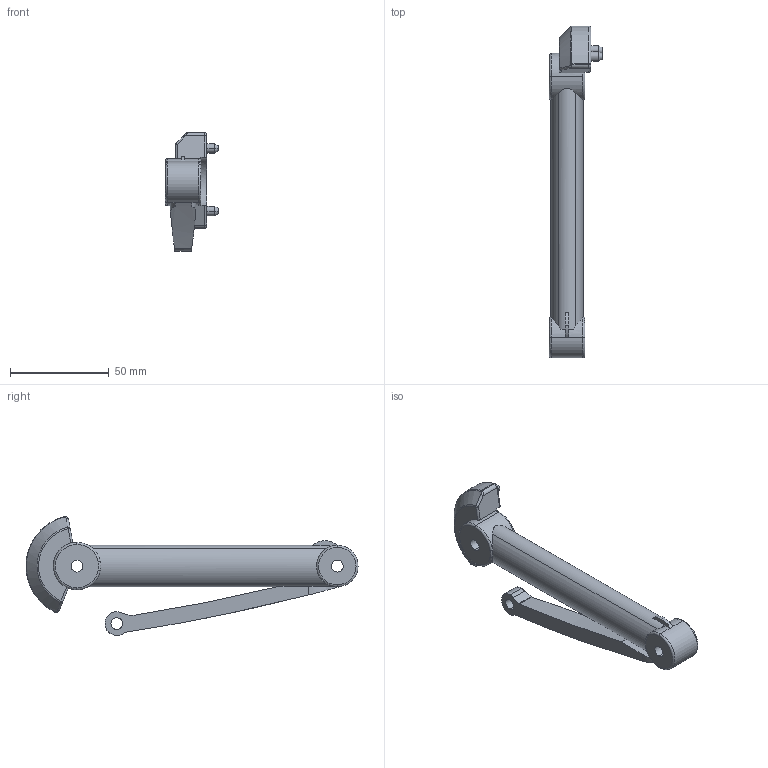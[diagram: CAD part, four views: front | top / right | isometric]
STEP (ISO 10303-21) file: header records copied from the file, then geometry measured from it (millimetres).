
FILE_DESCRIPTION (( 'STEP AP203' ), '1' );
FILE_NAME ('SK-105_rechts_D2652004125~0.step', '2012-05-04T07:17:48', ( 'admin' ), ( 'Hewlett-Packard Company' ), 'SwSTEP 2.0', 'SolidWorks 2011', '' );
FILE_SCHEMA (( 'CONFIG_CONTROL_DESIGN' ));
Length unit declared in the file: millimetre
Products named in the file (1): SK-105_rechts_D2652004125~0
Bounding box: 27 x 168.34 x 60.24 mm (x, y, z)
Volume: 61998.6 mm3; surface area: 17416.7 mm2
Topology: 1 solids, 1 shells, 107 faces, 276 edges, 173 vertices
Faces by surface type: cylinder 49, plane 27, torus 17, bspline 6, cone 5, sphere 3
Entity records: 3740 total; most frequent: CARTESIAN_POINT 1112, ORIENTED_EDGE 552, DIRECTION 540, EDGE_CURVE 276, AXIS2_PLACEMENT_3D 225, VERTEX_POINT 173, CIRCLE 123, EDGE_LOOP 117
